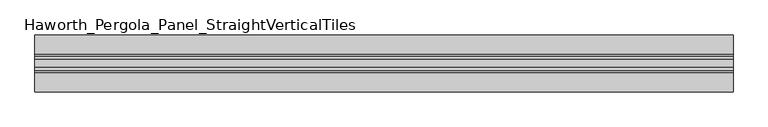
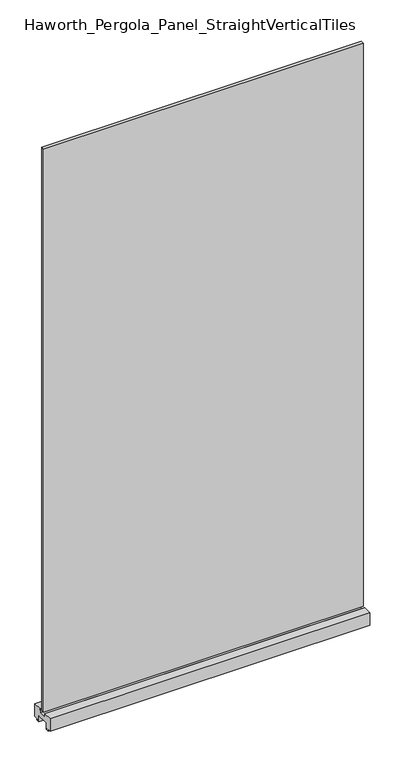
"""IFC4 building model written with IfcOpenShell, lengths in millimetres: furniture geometry, Haworth_Pergola_Panel_StraightVerticalTiles : Vertical Tiles - 96h 48w - (48w)."""

from ifc_helpers import new_model, si_unit, frame, origin, place, context, project, spatial, polyline, outline, extrude, source, transform, mapped, element, save


def haworth_pergola_panel_straightverticaltiles_1b94613b(model_context):
    return source(origin(), model_context, "Body", "SweptSolid", [
        extrude(outline(polyline([(-571.5, 6.35), (647.7, 6.35), (647.7, -6.35), (-571.5, -6.35), (-571.5, 6.35)])), frame((0.0, 0.0, 63.5), z_axis=(0.0, 0.0, 1.0), x_axis=(1.0, 0.0, 0.0)), (0.0, 0.0, 1.0), 2268.3390625),
        extrude(outline(polyline([(-16.2000002, 63.5), (-16.5085717, 61.7499999), (-13.3999996, 61.7499999), (-13.3999996, 58.8973461), (-15.4000002, 59.2499999), (-15.4000002, 48.3500004), (15.4000003, 48.3500004), (15.4000003, 59.2499999), (13.3999997, 58.8973461), (13.3999997, 61.7499999), (16.5085718, 61.7499999), (16.2000003, 63.5), (50.0000004, 63.5), (50.0000004, 12.6999985), (40.9499987, 12.6999985), (38.9499981, 10.6999979), (28.9499999, 10.6999979), (28.9499999, 7.6999994), (38.9499981, 7.6999994), (38.9499981, 5.6999988), (23.7499993, 5.6999988), (23.7499993, 31.4500009), (-23.7499992, 31.4500009), (-23.7499992, 5.6999988), (-38.949998, 5.6999988), (-38.949998, 7.6999994), (-28.9499998, 7.6999994), (-28.9499998, 10.6999979), (-38.949998, 10.6999979), (-40.9499986, 12.6999985), (-50.0000003, 12.6999985), (-50.0000003, 63.5), (-16.2000002, 63.5)])), frame((-571.5, 0.0, 0.0), z_axis=(1.0, 0.0, 0.0), x_axis=(0.0, 1.0, 0.0)), (0.0, 0.0, 1.0), 1219.2),
    ])


if __name__ == "__main__":
    model = new_model("IFC4")
    model_context = context("Model", 3, world=origin())
    ifc_project = project(units=[si_unit("LENGTHUNIT", "METRE", prefix="MILLI")], contexts=[model_context])
    site = spatial("IfcSite", under=ifc_project)
    building = spatial("IfcBuilding", under=site)
    placement = place(None, origin())
    haworth_pergola_panel_straightverticaltiles_shape = haworth_pergola_panel_straightverticaltiles_1b94613b(model_context)
    element("IfcFurniture", 1, ObjectType="Haworth_Pergola_Panel_StraightVerticalTiles : Vertical Tiles - 96h 48w - (48w)", at=placement, inside=building, context=model_context, shape_type="MappedRepresentation", body=[
        mapped(haworth_pergola_panel_straightverticaltiles_shape, transform((0.0, 0.0, 0.0), x_axis=(1.0, 0.0, 0.0), y_axis=(0.0, 1.0, 0.0), z_axis=(0.0, 0.0, 1.0))),
    ])
    save(model, "model.ifc")
